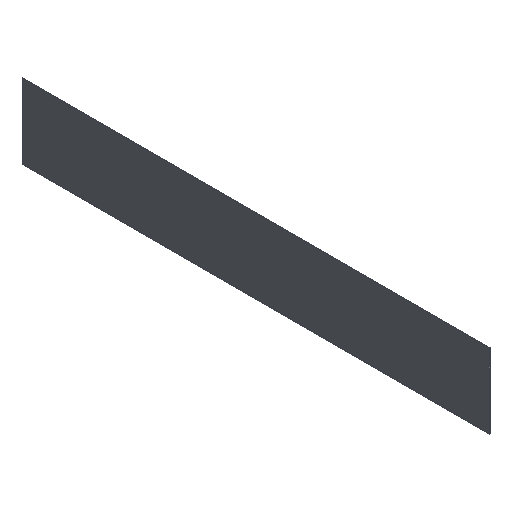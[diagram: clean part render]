
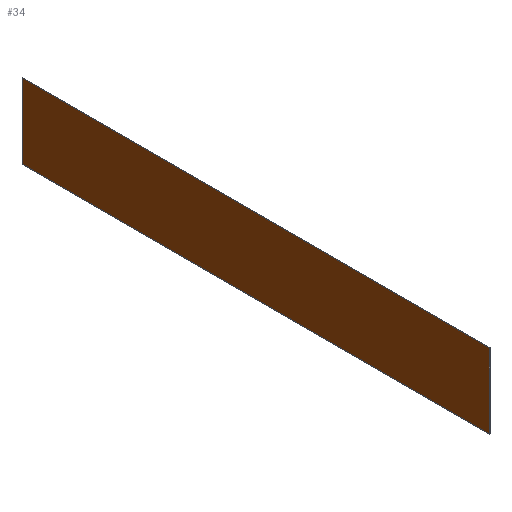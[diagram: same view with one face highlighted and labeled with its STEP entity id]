
A CAD part, isometric view. The second image highlights one B-rep face of the part: STEP entity #34.
In plain terms, the highlighted planar face has unit normal (-1, 0, 0).
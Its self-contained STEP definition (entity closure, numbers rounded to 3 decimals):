
#34 = ADVANCED_FACE( 'NONE', ( #65 ), #66, .T. );
#65 = FACE_OUTER_BOUND( '', #90, .T. );
#66 = PLANE( '', #91 );
#90 = EDGE_LOOP( '', ( #119, #120, #121, #122 ) );
#91 = AXIS2_PLACEMENT_3D( '', #123, #124, #125 );
#119 = ORIENTED_EDGE( '', *, *, #160, .T. );
#120 = ORIENTED_EDGE( '', *, *, #161, .T. );
#121 = ORIENTED_EDGE( '', *, *, #153, .T. );
#122 = ORIENTED_EDGE( '', *, *, #158, .T. );
#123 = CARTESIAN_POINT( '', ( -0.15, 0., 0. ) );
#124 = DIRECTION( '', ( -1., 0., 0. ) );
#125 = DIRECTION( '', ( 0., 1., 0. ) );
#153 = EDGE_CURVE( 'NONE', #174, #172, #175, .T. );
#158 = EDGE_CURVE( 'NONE', #172, #180, #182, .T. );
#160 = EDGE_CURVE( 'NONE', #180, #184, #185, .T. );
#161 = EDGE_CURVE( 'NONE', #184, #174, #186, .T. );
#172 = VERTEX_POINT( 'NONE', #199 );
#174 = VERTEX_POINT( 'NONE', #202 );
#175 = LINE( '', #203, #204 );
#180 = VERTEX_POINT( 'NONE', #211 );
#182 = LINE( '', #214, #215 );
#184 = VERTEX_POINT( 'NONE', #217 );
#185 = LINE( '', #218, #219 );
#186 = LINE( '', #220, #221 );
#199 = CARTESIAN_POINT( '', ( -0.15, 125., -20. ) );
#202 = CARTESIAN_POINT( '', ( -0.15, 125., 20. ) );
#203 = CARTESIAN_POINT( '', ( -0.15, 125., 20. ) );
#204 = VECTOR( '', #234, 1000. );
#211 = CARTESIAN_POINT( '', ( -0.15, -125., -20. ) );
#214 = CARTESIAN_POINT( '', ( -0.15, 125., -20. ) );
#215 = VECTOR( '', #238, 1000. );
#217 = CARTESIAN_POINT( '', ( -0.15, -125., 20. ) );
#218 = CARTESIAN_POINT( '', ( -0.15, -125., 20. ) );
#219 = VECTOR( '', #239, 1000. );
#220 = CARTESIAN_POINT( '', ( -0.15, 125., 20. ) );
#221 = VECTOR( '', #240, 1000. );
#234 = DIRECTION( '', ( 0., 0., -1. ) );
#238 = DIRECTION( '', ( 0., -1., 0. ) );
#239 = DIRECTION( '', ( 0., 0., 1. ) );
#240 = DIRECTION( '', ( 0., 1., 0. ) );
